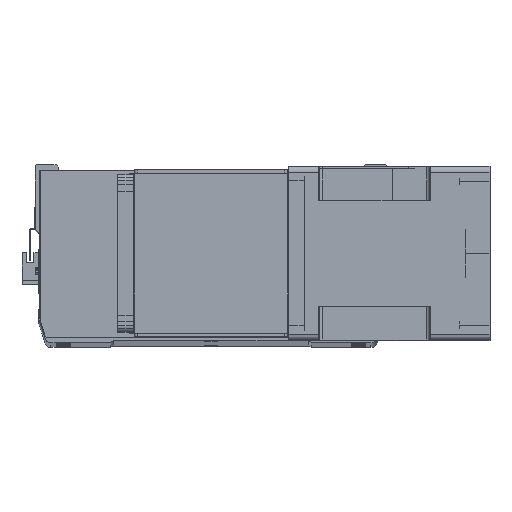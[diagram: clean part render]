
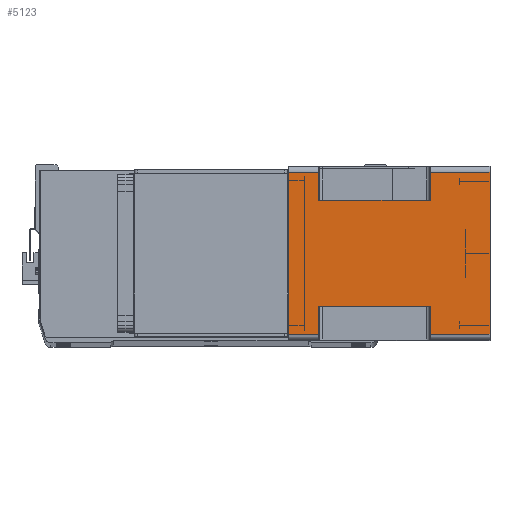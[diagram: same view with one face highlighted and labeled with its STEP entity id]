
A CAD part, top view. The second image highlights one B-rep face of the part: STEP entity #5123.
In plain terms, the highlighted planar face has unit normal (0, 0, 1) as drawn and (1, 0, 0) by its records, which use the part's own axes.
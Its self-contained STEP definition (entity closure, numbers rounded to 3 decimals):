
#238 = LINE ( 'NONE', #14839, #28953 ) ;
#245 = LINE ( 'NONE', #3761, #32510 ) ;
#818 = CARTESIAN_POINT ( 'NONE',  ( 71., -66., -24.5 ) ) ;
#1584 = VECTOR ( 'NONE', #16635, 1000. ) ;
#1777 = VERTEX_POINT ( 'NONE', #25244 ) ;
#1898 = VECTOR ( 'NONE', #30001, 1000. ) ;
#1978 = VERTEX_POINT ( 'NONE', #3115 ) ;
#2373 = LINE ( 'NONE', #8975, #1584 ) ;
#2746 = VERTEX_POINT ( 'NONE', #16332 ) ;
#3062 = VERTEX_POINT ( 'NONE', #13890 ) ;
#3115 = CARTESIAN_POINT ( 'NONE',  ( 71., 66., -24.5 ) ) ;
#3131 = DIRECTION ( 'NONE',  ( 0., 0., 1. ) ) ;
#3350 = CARTESIAN_POINT ( 'NONE',  ( 71., -66., -164. ) ) ;
#3667 = EDGE_CURVE ( 'NONE', #1978, #3062, #245, .T. ) ;
#3761 = CARTESIAN_POINT ( 'NONE',  ( 71., 66., -164. ) ) ;
#4073 = CARTESIAN_POINT ( 'NONE',  ( 71., 66., -164. ) ) ;
#4154 = EDGE_CURVE ( 'NONE', #22525, #14493, #20468, .T. ) ;
#4175 = DIRECTION ( 'NONE',  ( 0., 0., 1. ) ) ;
#4312 = VERTEX_POINT ( 'NONE', #4617 ) ;
#4540 = ORIENTED_EDGE ( 'NONE', *, *, #20328, .F. ) ;
#4617 = CARTESIAN_POINT ( 'NONE',  ( 71., 43., -24.5 ) ) ;
#4822 = LINE ( 'NONE', #25500, #31138 ) ;
#4853 = CARTESIAN_POINT ( 'NONE',  ( 71., -66., -115.5 ) ) ;
#4899 = LINE ( 'NONE', #23195, #25566 ) ;
#5123 = ADVANCED_FACE ( 'NONE', ( #18050 ), #18436, .T. ) ;
#5436 = DIRECTION ( 'NONE',  ( 0., 0., 1. ) ) ;
#5469 = CARTESIAN_POINT ( 'NONE',  ( 71., 66., -115.5 ) ) ;
#5518 = ORIENTED_EDGE ( 'NONE', *, *, #32963, .F. ) ;
#5745 = CARTESIAN_POINT ( 'NONE',  ( 71., -66., -164. ) ) ;
#5846 = DIRECTION ( 'NONE',  ( 0., 1., 0. ) ) ;
#5882 = CARTESIAN_POINT ( 'NONE',  ( 71., 66., -164. ) ) ;
#6031 = CARTESIAN_POINT ( 'NONE',  ( 71., -43., -24.5 ) ) ;
#7089 = EDGE_CURVE ( 'NONE', #2746, #23786, #10383, .T. ) ;
#7259 = ORIENTED_EDGE ( 'NONE', *, *, #18424, .T. ) ;
#8107 = DIRECTION ( 'NONE',  ( 0., 1., 0. ) ) ;
#8975 = CARTESIAN_POINT ( 'NONE',  ( 71., -66., -164. ) ) ;
#9567 = CARTESIAN_POINT ( 'NONE',  ( 71., -43., -24.5 ) ) ;
#9739 = ORIENTED_EDGE ( 'NONE', *, *, #25544, .T. ) ;
#10383 = LINE ( 'NONE', #4853, #25815 ) ;
#11008 = EDGE_CURVE ( 'NONE', #12172, #1777, #4822, .T. ) ;
#12172 = VERTEX_POINT ( 'NONE', #22670 ) ;
#12234 = CARTESIAN_POINT ( 'NONE',  ( 71., -66., -164. ) ) ;
#12455 = ORIENTED_EDGE ( 'NONE', *, *, #4154, .T. ) ;
#13216 = DIRECTION ( 'NONE',  ( 0., 1., 0. ) ) ;
#13352 = CARTESIAN_POINT ( 'NONE',  ( 71., -43., -164. ) ) ;
#13435 = DIRECTION ( 'NONE',  ( 0., -1., 0. ) ) ;
#13577 = DIRECTION ( 'NONE',  ( 1., 0., 0. ) ) ;
#13591 = EDGE_LOOP ( 'NONE', ( #22709, #25179, #4540, #9739, #12455, #31424, #17890, #7259, #32969, #5518, #28070, #24001 ) ) ;
#13890 = CARTESIAN_POINT ( 'NONE',  ( 71., 66., 0. ) ) ;
#14493 = VERTEX_POINT ( 'NONE', #5469 ) ;
#14630 = DIRECTION ( 'NONE',  ( 0., 0., -1. ) ) ;
#14839 = CARTESIAN_POINT ( 'NONE',  ( 71., 43., -164. ) ) ;
#15342 = DIRECTION ( 'NONE',  ( 0., 0., 1. ) ) ;
#16332 = CARTESIAN_POINT ( 'NONE',  ( 71., -43., -115.5 ) ) ;
#16430 = VECTOR ( 'NONE', #13435, 1000. ) ;
#16635 = DIRECTION ( 'NONE',  ( 0., 1., 0. ) ) ;
#16840 = VECTOR ( 'NONE', #5436, 1000. ) ;
#17061 = LINE ( 'NONE', #9567, #1898 ) ;
#17486 = CARTESIAN_POINT ( 'NONE',  ( 71., 43., -115.5 ) ) ;
#17890 = ORIENTED_EDGE ( 'NONE', *, *, #27146, .F. ) ;
#18050 = FACE_OUTER_BOUND ( 'NONE', #13591, .T. ) ;
#18419 = CARTESIAN_POINT ( 'NONE',  ( 71., 43., -115.5 ) ) ;
#18424 = EDGE_CURVE ( 'NONE', #4312, #1978, #32505, .T. ) ;
#18436 = PLANE ( 'NONE',  #29802 ) ;
#19899 = EDGE_CURVE ( 'NONE', #14493, #27196, #19977, .T. ) ;
#19977 = LINE ( 'NONE', #18419, #16430 ) ;
#20328 = EDGE_CURVE ( 'NONE', #22186, #23786, #32008, .T. ) ;
#20468 = LINE ( 'NONE', #4073, #26418 ) ;
#20562 = CARTESIAN_POINT ( 'NONE',  ( 71., -66., -115.5 ) ) ;
#22186 = VERTEX_POINT ( 'NONE', #12234 ) ;
#22525 = VERTEX_POINT ( 'NONE', #5882 ) ;
#22670 = CARTESIAN_POINT ( 'NONE',  ( 71., -66., -24.5 ) ) ;
#22709 = ORIENTED_EDGE ( 'NONE', *, *, #24796, .F. ) ;
#22884 = DIRECTION ( 'NONE',  ( 0., -1., 0. ) ) ;
#23195 = CARTESIAN_POINT ( 'NONE',  ( 71., -66., 0. ) ) ;
#23197 = VECTOR ( 'NONE', #3131, 1000. ) ;
#23786 = VERTEX_POINT ( 'NONE', #20562 ) ;
#24001 = ORIENTED_EDGE ( 'NONE', *, *, #29725, .T. ) ;
#24796 = EDGE_CURVE ( 'NONE', #2746, #28954, #28385, .T. ) ;
#25179 = ORIENTED_EDGE ( 'NONE', *, *, #7089, .T. ) ;
#25244 = CARTESIAN_POINT ( 'NONE',  ( 71., -66., 0. ) ) ;
#25500 = CARTESIAN_POINT ( 'NONE',  ( 71., -66., -164. ) ) ;
#25544 = EDGE_CURVE ( 'NONE', #22186, #22525, #2373, .T. ) ;
#25566 = VECTOR ( 'NONE', #13216, 1000. ) ;
#25815 = VECTOR ( 'NONE', #22884, 1000. ) ;
#26418 = VECTOR ( 'NONE', #4175, 1000. ) ;
#27146 = EDGE_CURVE ( 'NONE', #4312, #27196, #238, .T. ) ;
#27196 = VERTEX_POINT ( 'NONE', #17486 ) ;
#28070 = ORIENTED_EDGE ( 'NONE', *, *, #11008, .F. ) ;
#28385 = LINE ( 'NONE', #13352, #16840 ) ;
#28924 = VECTOR ( 'NONE', #5846, 1000. ) ;
#28954 = VERTEX_POINT ( 'NONE', #6031 ) ;
#28953 = VECTOR ( 'NONE', #14630, 1000. ) ;
#29725 = EDGE_CURVE ( 'NONE', #12172, #28954, #17061, .T. ) ;
#29802 = AXIS2_PLACEMENT_3D ( 'NONE', #5745, #13577, #8107 ) ;
#30001 = DIRECTION ( 'NONE',  ( 0., 1., 0. ) ) ;
#31138 = VECTOR ( 'NONE', #15342, 1000. ) ;
#31273 = DIRECTION ( 'NONE',  ( 0., 0., 1. ) ) ;
#31424 = ORIENTED_EDGE ( 'NONE', *, *, #19899, .T. ) ;
#32008 = LINE ( 'NONE', #3350, #23197 ) ;
#32505 = LINE ( 'NONE', #818, #28924 ) ;
#32510 = VECTOR ( 'NONE', #31273, 1000. ) ;
#32963 = EDGE_CURVE ( 'NONE', #1777, #3062, #4899, .T. ) ;
#32969 = ORIENTED_EDGE ( 'NONE', *, *, #3667, .T. ) ;
